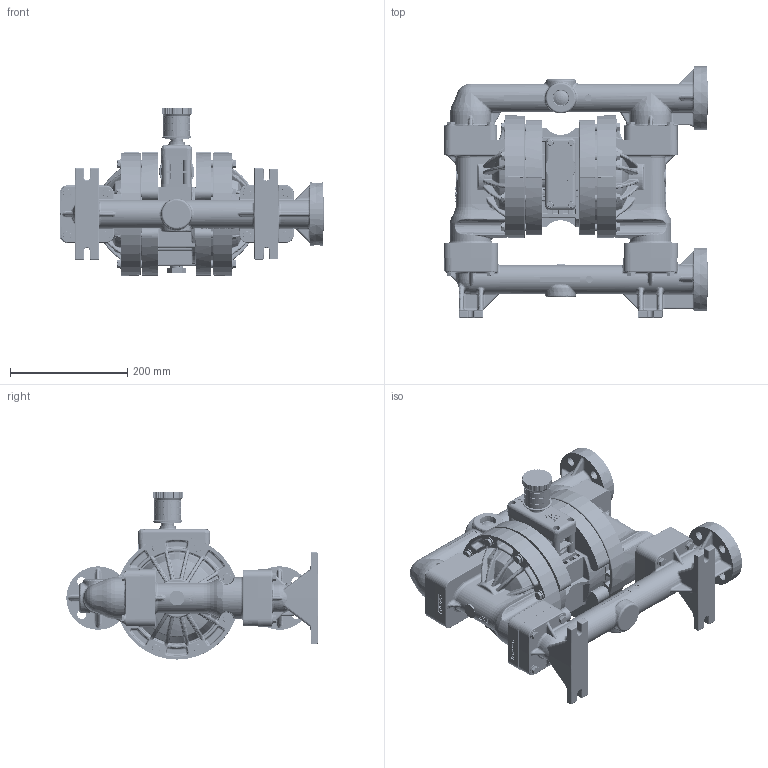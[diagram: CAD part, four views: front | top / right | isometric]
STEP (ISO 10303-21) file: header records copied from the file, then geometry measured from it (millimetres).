
FILE_DESCRIPTION (( 'STEP AP214' ), '1' );
FILE_NAME ('P200_ADV_PVDF.STEP', '2025-10-10T07:00:31', ( '' ), ( '' ), 'SwSTEP 2.0', 'SolidWorks 2022', '' );
FILE_SCHEMA (( 'AUTOMOTIVE_DESIGN' ));
Length unit declared in the file: inch
Products named in the file (1): P200_ADV_PVDF
Bounding box: 452.12 x 429.41 x 287.5 mm (x, y, z)
Volume: 10778736.7 mm3; surface area: 915430.7 mm2
Topology: 1 solids, 2 shells, 9687 faces, 24159 edges, 14796 vertices
Faces by surface type: plane 4213, bspline 1861, cylinder 1321, sphere 1232, cone 641, torus 419
Entity records: 470803 total; most frequent: CARTESIAN_POINT 254898, ORIENTED_EDGE 48290, DIRECTION 40944, EDGE_CURVE 24145, AXIS2_PLACEMENT_3D 15108, VERTEX_POINT 14794, LINE 10728, VECTOR 10728
